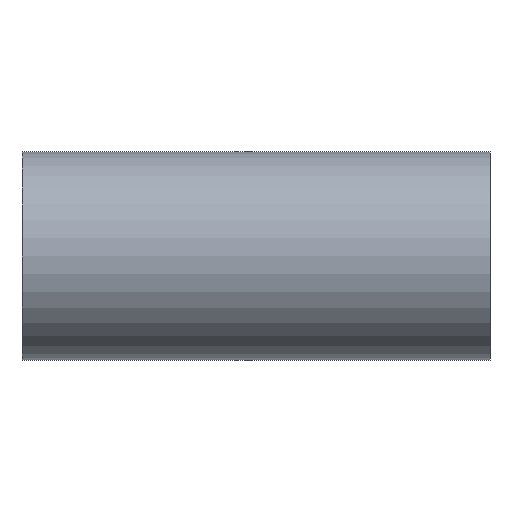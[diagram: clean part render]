
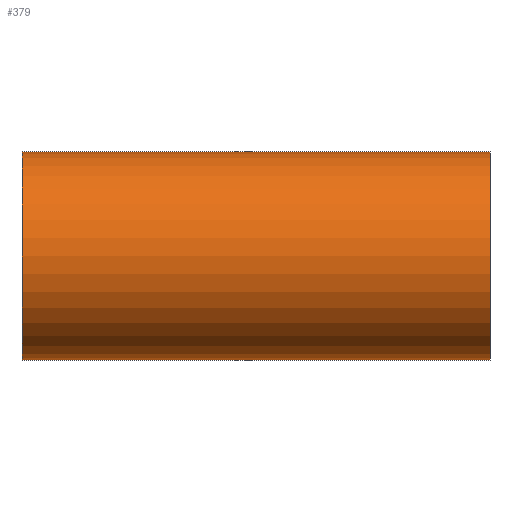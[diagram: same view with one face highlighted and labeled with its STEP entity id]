
A CAD part, front view. The second image highlights one B-rep face of the part: STEP entity #379.
In plain terms, the highlighted cylindrical face has radius 38.1 mm (diameter 76.2 mm), a partial arc.
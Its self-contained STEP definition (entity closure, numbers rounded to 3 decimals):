
#3 = VECTOR ( 'NONE', #434, 1000. ) ;
#16 = EDGE_LOOP ( 'NONE', ( #95, #415, #460, #525 ) ) ;
#37 = VERTEX_POINT ( 'NONE', #88 ) ;
#49 = VERTEX_POINT ( 'NONE', #243 ) ;
#58 = CIRCLE ( 'NONE', #310, 38.1 ) ;
#63 = FACE_OUTER_BOUND ( 'NONE', #16, .T. ) ;
#70 = DIRECTION ( 'NONE',  ( 0., 0., -1. ) ) ;
#75 = EDGE_CURVE ( 'NONE', #37, #49, #326, .T. ) ;
#88 = CARTESIAN_POINT ( 'NONE',  ( -85.7, 0., 38.1 ) ) ;
#92 = VERTEX_POINT ( 'NONE', #498 ) ;
#95 = ORIENTED_EDGE ( 'NONE', *, *, #75, .F. ) ;
#103 = VECTOR ( 'NONE', #241, 1000. ) ;
#112 = EDGE_CURVE ( 'NONE', #37, #92, #225, .T. ) ;
#137 = CARTESIAN_POINT ( 'NONE',  ( -85.7, 0., -38.1 ) ) ;
#155 = DIRECTION ( 'NONE',  ( 1., 0., 0. ) ) ;
#168 = AXIS2_PLACEMENT_3D ( 'NONE', #195, #200, #193 ) ;
#193 = DIRECTION ( 'NONE',  ( 0., 0., -1. ) ) ;
#195 = CARTESIAN_POINT ( 'NONE',  ( -85.7, 0., 0. ) ) ;
#200 = DIRECTION ( 'NONE',  ( 1., 0., 0. ) ) ;
#215 = EDGE_CURVE ( 'NONE', #92, #509, #255, .T. ) ;
#225 = CIRCLE ( 'NONE', #539, 38.1 ) ;
#241 = DIRECTION ( 'NONE',  ( 1., 0., 0. ) ) ;
#243 = CARTESIAN_POINT ( 'NONE',  ( 85.7, 0., 38.1 ) ) ;
#255 = LINE ( 'NONE', #137, #103 ) ;
#288 = CARTESIAN_POINT ( 'NONE',  ( -85.7, 0., 38.1 ) ) ;
#310 = AXIS2_PLACEMENT_3D ( 'NONE', #499, #368, #392 ) ;
#326 = LINE ( 'NONE', #288, #3 ) ;
#360 = CARTESIAN_POINT ( 'NONE',  ( -85.7, 0., 0. ) ) ;
#368 = DIRECTION ( 'NONE',  ( -1., 0., 0. ) ) ;
#379 = ADVANCED_FACE ( 'NONE', ( #63 ), #491, .T. ) ;
#392 = DIRECTION ( 'NONE',  ( 0., 0., -1. ) ) ;
#415 = ORIENTED_EDGE ( 'NONE', *, *, #112, .T. ) ;
#434 = DIRECTION ( 'NONE',  ( 1., 0., 0. ) ) ;
#460 = ORIENTED_EDGE ( 'NONE', *, *, #215, .T. ) ;
#467 = EDGE_CURVE ( 'NONE', #509, #49, #58, .T. ) ;
#491 = CYLINDRICAL_SURFACE ( 'NONE', #168, 38.1 ) ;
#498 = CARTESIAN_POINT ( 'NONE',  ( -85.7, 0., -38.1 ) ) ;
#499 = CARTESIAN_POINT ( 'NONE',  ( 85.7, 0., 0. ) ) ;
#509 = VERTEX_POINT ( 'NONE', #537 ) ;
#525 = ORIENTED_EDGE ( 'NONE', *, *, #467, .T. ) ;
#537 = CARTESIAN_POINT ( 'NONE',  ( 85.7, 0., -38.1 ) ) ;
#539 = AXIS2_PLACEMENT_3D ( 'NONE', #360, #155, #70 ) ;
